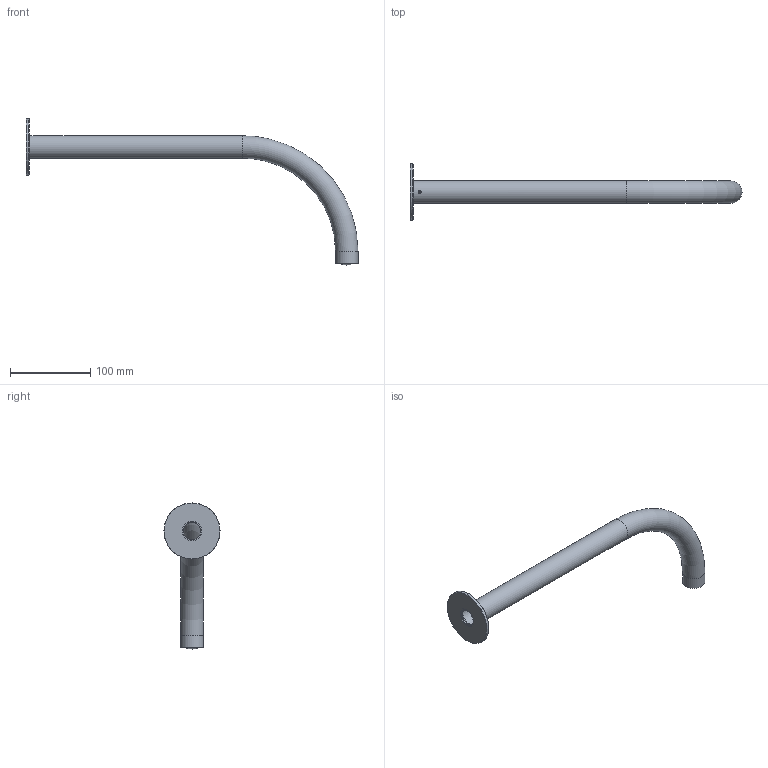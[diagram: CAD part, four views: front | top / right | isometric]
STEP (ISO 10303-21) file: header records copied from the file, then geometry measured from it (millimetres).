
FILE_DESCRIPTION(/* description */ ('Unknown'),/* implementation_level */ '2;1');
FILE_NAME(/* name */ 'RE054',/* time_stamp */ '2023-11-28T16:51:53+01:00',/* author */ ('Unknown'),/* organization */ ('Unknown'),/* preprocessor_version */ 'ST-DEVELOPER v18.102',/* originating_system */ 'Solid Edge',/* authorisation */ 'Unknown');
FILE_SCHEMA (('AUTOMOTIVE_DESIGN {1 0 10303 214 3 1 1}'));
Length unit declared in the file: millimetre
Products named in the file (7): RE054; GRP-4x4; RE036-02; RE054-01; AR.021_oa_0; AR.021.001_oa_1; AR.021-2
Assembly tree (6 placements, depth 4):
  RE054
    GRP-4x4
    RE036-02
    RE054-01
    AR.021_oa_0
      AR.021.001_oa_1
        AR.021-2
Bounding box: 414 x 70 x 182.25 mm (x, y, z)
Volume: 114222.7 mm3; surface area: 88978.1 mm2
Topology: 5 solids, 5 shells, 95 faces, 232 edges, 152 vertices
Faces by surface type: plane 47, cylinder 27, cone 11, torus 6, bspline 3, sphere 1
Full cylindrical faces by diameter (mm): 3.242 x1, 18 x1, 21.5 x1, 21.6 x2, 23 x1, 23.188 x1, 23.472 x2, 24 x1, 24.2 x1, 24.6 x1, 25.3 x1, 28 x2, 70 x1
Entity records: 3996 total; most frequent: CARTESIAN_POINT 1329, DIRECTION 446, ORIENTED_EDGE 360, AXIS2_PLACEMENT_3D 181, EDGE_CURVE 180, FACE_BOUND 142, EDGE_LOOP 141, VERTEX_POINT 136
